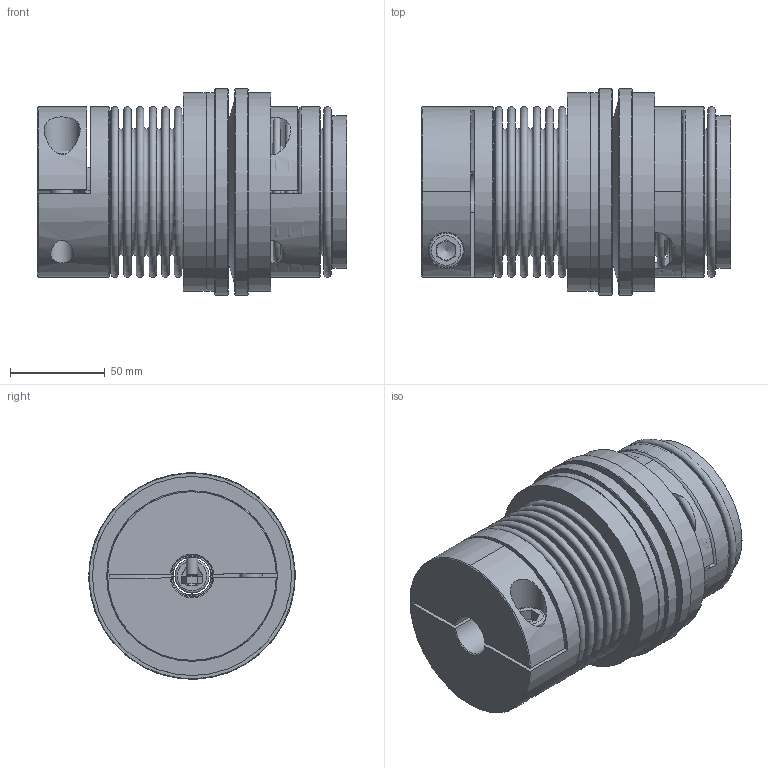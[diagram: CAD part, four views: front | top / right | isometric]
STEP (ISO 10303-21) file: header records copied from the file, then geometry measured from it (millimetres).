
FILE_DESCRIPTION( ( 'Unknown' ), '1' );
FILE_NAME( 'C:/Dokumente und Einstellungen/SKarpstein/Desktop/Korrigierte 3D Modelle/KBK-BKI-200-126.stp', 'Unknown', ( 'Unknown' ), ( 'Unknown' ), 'XStep 1.0', 'Unknown', ' ' );
FILE_SCHEMA( ( 'automotive_design' ) );
Length unit declared in the file: millimetre
Products named in the file (10): Assem1; Stellring 200; Druckring 200; KBK L-I-200 Grundkörper; Konusbuchse 200; din_en_24017_m6x25_0; Flansch BK200; BL200_Standard_0; KN200_Standard_2; Socket Head Cap Screw_DIN_DIN 912 M12 x 35 --- 35N_4
Bounding box: 163.05 x 109 x 109 mm (x, y, z)
Volume: 1062656.3 mm3; surface area: 429015.9 mm2
Topology: 23 solids, 23 shells, 588 faces, 1222 edges, 787 vertices
Faces by surface type: plane 269, cylinder 128, cone 126, torus 65
Full cylindrical faces by diameter (mm): 3.242 x6, 4.917 x18, 5.2 x12, 6 x7, 6.5 x12, 8.8 x7, 12 x4, 12.5 x2, 18 x2, 19 x2, 20 x4, 22 x2, 46 x2, 47 x2, 50 x4, 60 x2, 62 x2, 64 x2, 65 x2, 66 x4, 77 x2, 79.2 x4, 80.4 x4, 90 x4, 98 x2, 105 x4, 109 x2
Entity records: 6480 total; most frequent: CARTESIAN_POINT 1502, DIRECTION 1049, ORIENTED_EDGE 690, AXIS2_PLACEMENT_3D 487, EDGE_LOOP 438, EDGE_CURVE 345, FACE_OUTER_BOUND 322, VERTEX_POINT 286
